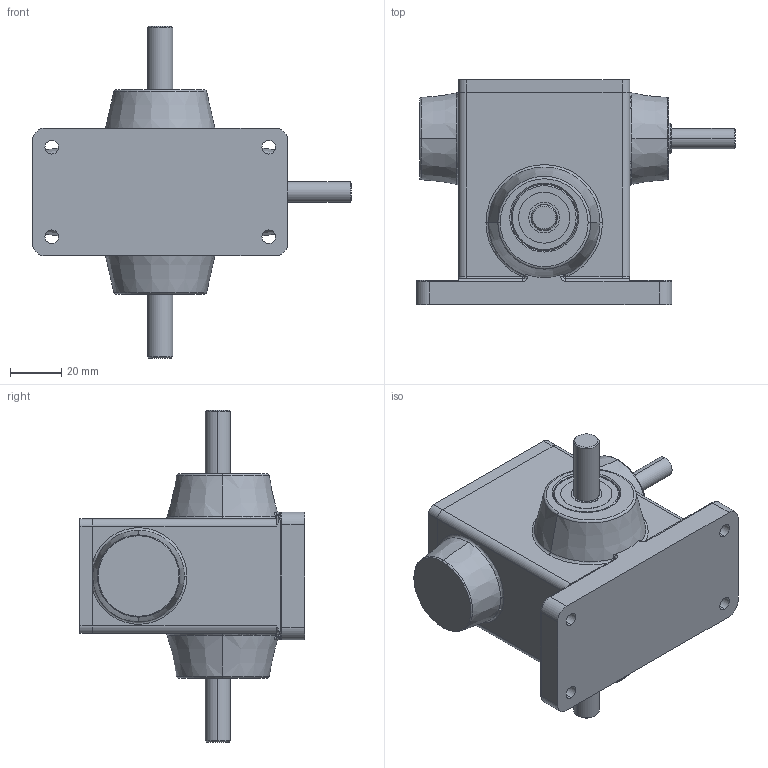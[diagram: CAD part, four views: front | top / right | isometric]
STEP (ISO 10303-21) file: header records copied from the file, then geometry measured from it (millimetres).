
FILE_DESCRIPTION (( 'STEP AP214' ), '1' );
FILE_NAME ('SN17A_3D-Export.STEP', '2023-04-24T06:48:19', ( '' ), ( '' ), 'SwSTEP 2.0', 'SolidWorks 2021', '' );
FILE_SCHEMA (( 'AUTOMOTIVE_DESIGN' ));
Length unit declared in the file: millimetre
Products named in the file (9): NBR_WDR_10x22x7; 17-D-001; NBR_WDR_12x28x7; 17-W-003_3D-Export; 17-W-001_3D-Export; 17-G-002_3D-Export; slotted countersunk flat head screw_iso_ISO 2009 - M4 x 10 - 10C; NBR_WDR_10x26x7; SN17A_3D-Export
Assembly tree (11 placements, depth 2):
  SN17A_3D-Export
    17-G-002_3D-Export
    17-D-001
    17-W-001_3D-Export
    NBR_WDR_10x26x7
    NBR_WDR_10x22x7
    NBR_WDR_12x28x7
    17-W-003_3D-Export
    slotted countersunk flat head screw_iso_ISO 2009 - M4 x 10 - 10C  x4
Bounding box: 124.9 x 88.2 x 130 mm (x, y, z)
Volume: 357705.9 mm3; surface area: 61405.5 mm2
Topology: 11 solids, 11 shells, 328 faces, 752 edges, 454 vertices
Faces by surface type: cylinder 124, cone 82, plane 80, torus 38, sphere 4
Entity records: 8608 total; most frequent: DIRECTION 1564, CARTESIAN_POINT 1534, ORIENTED_EDGE 1288, AXIS2_PLACEMENT_3D 656, EDGE_CURVE 644, VERTEX_POINT 394, CIRCLE 356, EDGE_LOOP 330
